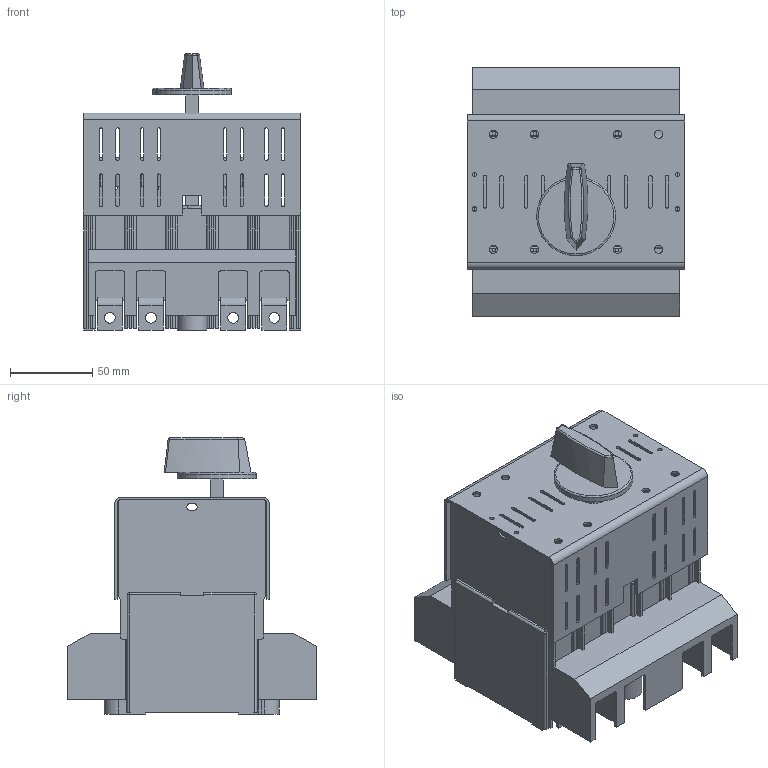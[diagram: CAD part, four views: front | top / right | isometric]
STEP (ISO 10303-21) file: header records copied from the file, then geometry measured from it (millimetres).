
FILE_DESCRIPTION(/* description */ (''),/* implementation_level */ '2;1');
FILE_NAME(/* name */ 'RAB 000 P3 NB-R, P4 B-R z oslona zaciskow.stp',/* time_stamp */ '2021-08-19T09:50:03+02:00',/* author */ (''),/* organization */ (''),/* preprocessor_version */ 'ST-DEVELOPER v18.1',/* originating_system */ 'SIEMENS PLM Software NX 1965',/* authorisation */ '');
FILE_SCHEMA (('AUTOMOTIVE_DESIGN { 1 0 10303 214 3 1 1 1 }'));
Length unit declared in the file: millimetre
Products named in the file (1): RAB 000 P3 NB-R, P4 B-R z oslona zaciskow
Bounding box: 132.5 x 151.03 x 168 mm (x, y, z)
Volume: 792564.9 mm3; surface area: 264880.6 mm2
Topology: 1 solids, 1 shells, 1184 faces, 3426 edges, 2221 vertices
Faces by surface type: plane 769, cylinder 334, extrusion 48, sphere 25, bspline 7, torus 1
Full cylindrical faces by diameter (mm): 2.7 x4, 5 x8, 5.8 x2, 6.5 x8, 10 x2, 11.5 x2, 20 x1, 48 x1
Entity records: 39326 total; most frequent: CARTESIAN_POINT 8010, ORIENTED_EDGE 6710, DIRECTION 6187, EDGE_CURVE 3355, VECTOR 2587, LINE 2539, VERTEX_POINT 2190, AXIS2_PLACEMENT_3D 1800
